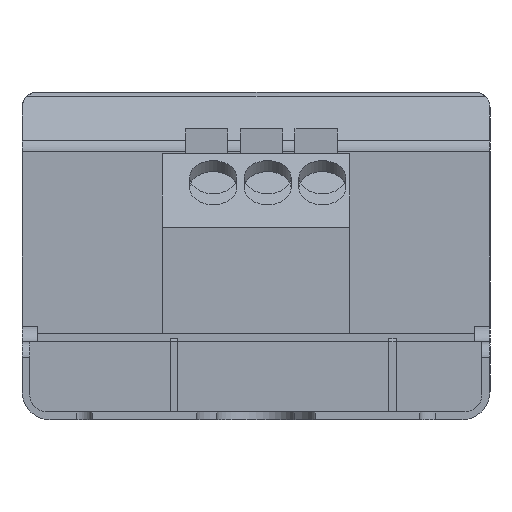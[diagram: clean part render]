
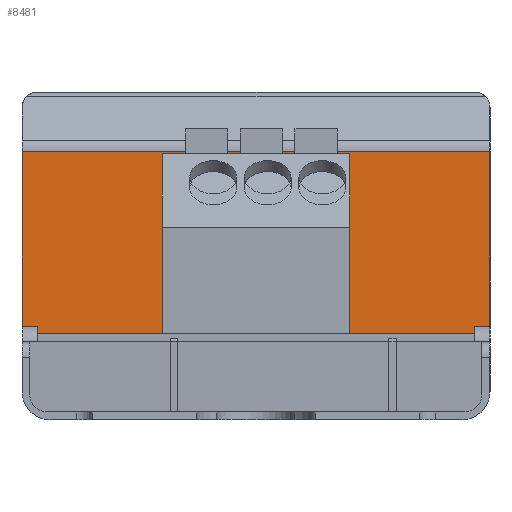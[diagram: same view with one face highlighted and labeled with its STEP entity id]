
A CAD part, left-side view. The second image highlights one B-rep face of the part: STEP entity #8481.
In plain terms, the highlighted planar face has unit normal (-1, 0, 0).
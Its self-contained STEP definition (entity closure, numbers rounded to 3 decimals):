
#2941=DIRECTION('',(0.,-1.,0.));
#2942=VECTOR('',#2941,28.);
#2943=CARTESIAN_POINT('',(23.049,14.,5.55));
#2944=LINE('',#2943,#2942);
#2973=DIRECTION('',(0.,1.,0.));
#2974=VECTOR('',#2973,30.);
#2975=CARTESIAN_POINT('',(23.049,-15.,17.186));
#2976=LINE('',#2975,#2974);
#2977=DIRECTION('',(0.,0.,-1.));
#2978=VECTOR('',#2977,11.186);
#2979=CARTESIAN_POINT('',(23.049,-15.,17.186));
#2980=LINE('',#2979,#2978);
#2981=DIRECTION('',(0.,-1.,0.));
#2982=VECTOR('',#2981,1.);
#2983=CARTESIAN_POINT('',(23.049,-14.,6.));
#2984=LINE('',#2983,#2982);
#2985=DIRECTION('',(0.,0.,-1.));
#2986=VECTOR('',#2985,0.45);
#2987=CARTESIAN_POINT('',(23.049,-14.,6.));
#2988=LINE('',#2987,#2986);
#2989=DIRECTION('',(0.,0.,-1.));
#2990=VECTOR('',#2989,0.45);
#2991=CARTESIAN_POINT('',(23.049,14.,6.));
#2992=LINE('',#2991,#2990);
#2993=DIRECTION('',(0.,-1.,0.));
#2994=VECTOR('',#2993,1.);
#2995=CARTESIAN_POINT('',(23.049,15.,6.));
#2996=LINE('',#2995,#2994);
#2997=DIRECTION('',(0.,0.,1.));
#2998=VECTOR('',#2997,11.186);
#2999=CARTESIAN_POINT('',(23.049,15.,6.));
#3000=LINE('',#2999,#2998);
#3636=CARTESIAN_POINT('',(23.049,-15.,17.186));
#3637=CARTESIAN_POINT('',(23.049,15.,17.186));
#3638=VERTEX_POINT('',#3636);
#3639=VERTEX_POINT('',#3637);
#4260=CARTESIAN_POINT('',(23.049,-14.,6.));
#4261=CARTESIAN_POINT('',(23.049,-15.,6.));
#4262=VERTEX_POINT('',#4260);
#4263=VERTEX_POINT('',#4261);
#4264=CARTESIAN_POINT('',(23.049,-14.,5.55));
#4265=VERTEX_POINT('',#4264);
#4272=CARTESIAN_POINT('',(23.049,15.,6.));
#4273=CARTESIAN_POINT('',(23.049,14.,6.));
#4274=VERTEX_POINT('',#4272);
#4275=VERTEX_POINT('',#4273);
#4276=CARTESIAN_POINT('',(23.049,14.,5.55));
#4277=VERTEX_POINT('',#4276);
#8464=CARTESIAN_POINT('',(23.049,15.,17.6));
#8465=DIRECTION('',(-1.,0.,0.));
#8466=DIRECTION('',(0.,0.,-1.));
#8467=AXIS2_PLACEMENT_3D('',#8464,#8465,#8466);
#8468=PLANE('',#8467);
#8469=ORIENTED_EDGE('',*,*,#4511,.F.);
#8470=ORIENTED_EDGE('',*,*,#4670,.T.);
#8472=ORIENTED_EDGE('',*,*,#8471,.F.);
#8474=ORIENTED_EDGE('',*,*,#8473,.T.);
#8475=ORIENTED_EDGE('',*,*,#8430,.F.);
#8476=ORIENTED_EDGE('',*,*,#8457,.F.);
#8477=ORIENTED_EDGE('',*,*,#8402,.F.);
#8478=ORIENTED_EDGE('',*,*,#4457,.T.);
#8479=EDGE_LOOP('',(#8469,#8470,#8472,#8474,#8475,#8476,#8477,#8478));
#8480=FACE_OUTER_BOUND('',#8479,.F.);
#4457=EDGE_CURVE('',#4274,#3639,#3000,.T.);
#4511=EDGE_CURVE('',#3638,#3639,#2976,.T.);
#4670=EDGE_CURVE('',#3638,#4263,#2980,.T.);
#8402=EDGE_CURVE('',#4274,#4275,#2996,.T.);
#8430=EDGE_CURVE('',#4277,#4265,#2944,.T.);
#8457=EDGE_CURVE('',#4275,#4277,#2992,.T.);
#8471=EDGE_CURVE('',#4262,#4263,#2984,.T.);
#8473=EDGE_CURVE('',#4262,#4265,#2988,.T.);
#8481=ADVANCED_FACE('',(#8480),#8468,.T.);
